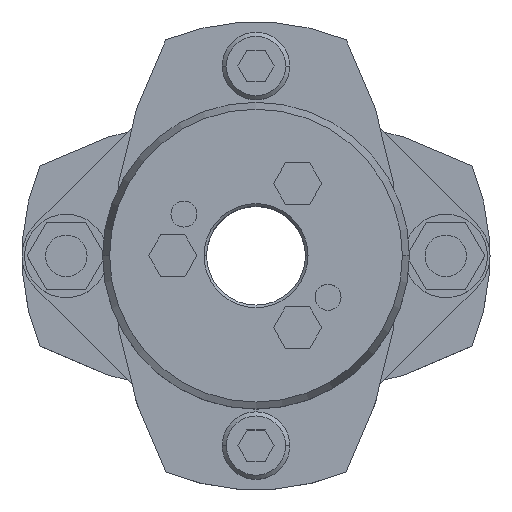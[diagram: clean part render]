
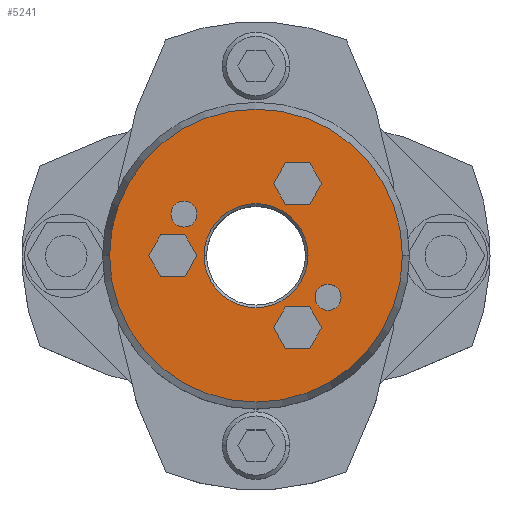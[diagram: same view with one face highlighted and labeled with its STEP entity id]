
A CAD part, top view. The second image highlights one B-rep face of the part: STEP entity #5241.
In plain terms, the highlighted planar face has unit normal (0, 0, 1).
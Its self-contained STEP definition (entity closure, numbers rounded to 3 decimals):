
#857=CARTESIAN_POINT('',(-10.,0.,39.25));
#858=VERTEX_POINT('',#857);
#874=CARTESIAN_POINT('',(10.,0.,39.25));
#875=VERTEX_POINT('',#874);
#882=CARTESIAN_POINT('',(0.,0.,39.25));
#883=DIRECTION('',(0.0,0.0,1.0));
#884=DIRECTION('',(-1.0,0.0,0.0));
#885=AXIS2_PLACEMENT_3D('',#882,#883,#884);
#886=CIRCLE('',#885,10.0);
#887=EDGE_CURVE('',#875,#858,#886,.T.);
#1045=CARTESIAN_POINT('',(28.16,0.,39.25));
#1046=VERTEX_POINT('',#1045);
#1053=CARTESIAN_POINT('',(-28.16,0.,39.25));
#1054=VERTEX_POINT('',#1053);
#1055=CARTESIAN_POINT('',(0.,0.,39.25));
#1056=DIRECTION('',(0.0,0.0,-1.0));
#1057=DIRECTION('',(1.0,0.0,0.0));
#1058=AXIS2_PLACEMENT_3D('',#1055,#1056,#1057);
#1059=CIRCLE('',#1058,28.16);
#1060=EDGE_CURVE('',#1046,#1054,#1059,.T.);
#1303=CARTESIAN_POINT('',(-16.356,8.,39.25));
#1304=VERTEX_POINT('',#1303);
#1320=CARTESIAN_POINT('',(-11.356,8.,39.25));
#1321=VERTEX_POINT('',#1320);
#1328=CARTESIAN_POINT('',(-13.856,8.,39.25));
#1329=DIRECTION('',(0.0,0.0,-1.0));
#1330=DIRECTION('',(-1.0,0.0,0.0));
#1331=AXIS2_PLACEMENT_3D('',#1328,#1329,#1330);
#1332=CIRCLE('',#1331,2.5);
#1333=EDGE_CURVE('',#1304,#1321,#1332,.T.);
#1345=CARTESIAN_POINT('',(11.356,-8.,39.25));
#1346=VERTEX_POINT('',#1345);
#1362=CARTESIAN_POINT('',(16.356,-8.,39.25));
#1363=VERTEX_POINT('',#1362);
#1370=CARTESIAN_POINT('',(13.856,-8.,39.25));
#1371=DIRECTION('',(0.0,0.0,-1.0));
#1372=DIRECTION('',(-1.0,0.0,0.0));
#1373=AXIS2_PLACEMENT_3D('',#1370,#1371,#1372);
#1374=CIRCLE('',#1373,2.5);
#1375=EDGE_CURVE('',#1346,#1363,#1374,.T.);
#3757=CARTESIAN_POINT('',(3.381,13.856,39.25));
#3758=VERTEX_POINT('',#3757);
#3765=CARTESIAN_POINT('',(5.691,9.856,39.25));
#3766=VERTEX_POINT('',#3765);
#3767=CARTESIAN_POINT('',(5.691,9.856,39.25));
#3768=DIRECTION('',(-0.5,0.866,0.0));
#3769=VECTOR('',#3768,4.619);
#3770=LINE('',#3767,#3769);
#3771=EDGE_CURVE('',#3766,#3758,#3770,.T.);
#3795=CARTESIAN_POINT('',(5.691,17.856,39.25));
#3796=VERTEX_POINT('',#3795);
#3803=CARTESIAN_POINT('',(3.381,13.856,39.25));
#3804=DIRECTION('',(0.5,0.866,0.0));
#3805=VECTOR('',#3804,4.619);
#3806=LINE('',#3803,#3805);
#3807=EDGE_CURVE('',#3758,#3796,#3806,.T.);
#3826=CARTESIAN_POINT('',(10.309,17.856,39.25));
#3827=VERTEX_POINT('',#3826);
#3834=CARTESIAN_POINT('',(5.691,17.856,39.25));
#3835=DIRECTION('',(1.0,0.0,0.0));
#3836=VECTOR('',#3835,4.619);
#3837=LINE('',#3834,#3836);
#3838=EDGE_CURVE('',#3796,#3827,#3837,.T.);
#3857=CARTESIAN_POINT('',(12.619,13.856,39.25));
#3858=VERTEX_POINT('',#3857);
#3865=CARTESIAN_POINT('',(10.309,17.856,39.25));
#3866=DIRECTION('',(0.5,-0.866,0.0));
#3867=VECTOR('',#3866,4.619);
#3868=LINE('',#3865,#3867);
#3869=EDGE_CURVE('',#3827,#3858,#3868,.T.);
#3888=CARTESIAN_POINT('',(10.309,9.856,39.25));
#3889=VERTEX_POINT('',#3888);
#3896=CARTESIAN_POINT('',(12.619,13.856,39.25));
#3897=DIRECTION('',(-0.5,-0.866,0.0));
#3898=VECTOR('',#3897,4.619);
#3899=LINE('',#3896,#3898);
#3900=EDGE_CURVE('',#3858,#3889,#3899,.T.);
#3918=CARTESIAN_POINT('',(10.309,9.856,39.25));
#3919=DIRECTION('',(-1.0,0.0,0.0));
#3920=VECTOR('',#3919,4.619);
#3921=LINE('',#3918,#3920);
#3922=EDGE_CURVE('',#3889,#3766,#3921,.T.);
#3957=CARTESIAN_POINT('',(-20.619,0.,39.25));
#3958=VERTEX_POINT('',#3957);
#3965=CARTESIAN_POINT('',(-18.309,-4.,39.25));
#3966=VERTEX_POINT('',#3965);
#3967=CARTESIAN_POINT('',(-18.309,-4.,39.25));
#3968=DIRECTION('',(-0.5,0.866,0.0));
#3969=VECTOR('',#3968,4.619);
#3970=LINE('',#3967,#3969);
#3971=EDGE_CURVE('',#3966,#3958,#3970,.T.);
#3995=CARTESIAN_POINT('',(-18.309,4.,39.25));
#3996=VERTEX_POINT('',#3995);
#4003=CARTESIAN_POINT('',(-20.619,0.,39.25));
#4004=DIRECTION('',(0.5,0.866,0.0));
#4005=VECTOR('',#4004,4.619);
#4006=LINE('',#4003,#4005);
#4007=EDGE_CURVE('',#3958,#3996,#4006,.T.);
#4026=CARTESIAN_POINT('',(-13.691,4.,39.25));
#4027=VERTEX_POINT('',#4026);
#4034=CARTESIAN_POINT('',(-18.309,4.,39.25));
#4035=DIRECTION('',(1.0,0.0,0.0));
#4036=VECTOR('',#4035,4.619);
#4037=LINE('',#4034,#4036);
#4038=EDGE_CURVE('',#3996,#4027,#4037,.T.);
#4057=CARTESIAN_POINT('',(-11.381,0.,39.25));
#4058=VERTEX_POINT('',#4057);
#4065=CARTESIAN_POINT('',(-13.691,4.,39.25));
#4066=DIRECTION('',(0.5,-0.866,0.0));
#4067=VECTOR('',#4066,4.619);
#4068=LINE('',#4065,#4067);
#4069=EDGE_CURVE('',#4027,#4058,#4068,.T.);
#4088=CARTESIAN_POINT('',(-13.691,-4.,39.25));
#4089=VERTEX_POINT('',#4088);
#4096=CARTESIAN_POINT('',(-11.381,0.,39.25));
#4097=DIRECTION('',(-0.5,-0.866,0.0));
#4098=VECTOR('',#4097,4.619);
#4099=LINE('',#4096,#4098);
#4100=EDGE_CURVE('',#4058,#4089,#4099,.T.);
#4118=CARTESIAN_POINT('',(-13.691,-4.,39.25));
#4119=DIRECTION('',(-1.0,0.0,0.0));
#4120=VECTOR('',#4119,4.619);
#4121=LINE('',#4118,#4120);
#4122=EDGE_CURVE('',#4089,#3966,#4121,.T.);
#4157=CARTESIAN_POINT('',(3.381,-13.856,39.25));
#4158=VERTEX_POINT('',#4157);
#4165=CARTESIAN_POINT('',(5.691,-17.856,39.25));
#4166=VERTEX_POINT('',#4165);
#4167=CARTESIAN_POINT('',(5.691,-17.856,39.25));
#4168=DIRECTION('',(-0.5,0.866,0.0));
#4169=VECTOR('',#4168,4.619);
#4170=LINE('',#4167,#4169);
#4171=EDGE_CURVE('',#4166,#4158,#4170,.T.);
#4195=CARTESIAN_POINT('',(5.691,-9.856,39.25));
#4196=VERTEX_POINT('',#4195);
#4203=CARTESIAN_POINT('',(3.381,-13.856,39.25));
#4204=DIRECTION('',(0.5,0.866,0.0));
#4205=VECTOR('',#4204,4.619);
#4206=LINE('',#4203,#4205);
#4207=EDGE_CURVE('',#4158,#4196,#4206,.T.);
#4226=CARTESIAN_POINT('',(10.309,-9.856,39.25));
#4227=VERTEX_POINT('',#4226);
#4234=CARTESIAN_POINT('',(5.691,-9.856,39.25));
#4235=DIRECTION('',(1.0,0.0,0.0));
#4236=VECTOR('',#4235,4.619);
#4237=LINE('',#4234,#4236);
#4238=EDGE_CURVE('',#4196,#4227,#4237,.T.);
#4257=CARTESIAN_POINT('',(12.619,-13.856,39.25));
#4258=VERTEX_POINT('',#4257);
#4265=CARTESIAN_POINT('',(10.309,-9.856,39.25));
#4266=DIRECTION('',(0.5,-0.866,0.0));
#4267=VECTOR('',#4266,4.619);
#4268=LINE('',#4265,#4267);
#4269=EDGE_CURVE('',#4227,#4258,#4268,.T.);
#4288=CARTESIAN_POINT('',(10.309,-17.856,39.25));
#4289=VERTEX_POINT('',#4288);
#4296=CARTESIAN_POINT('',(12.619,-13.856,39.25));
#4297=DIRECTION('',(-0.5,-0.866,0.0));
#4298=VECTOR('',#4297,4.619);
#4299=LINE('',#4296,#4298);
#4300=EDGE_CURVE('',#4258,#4289,#4299,.T.);
#4318=CARTESIAN_POINT('',(10.309,-17.856,39.25));
#4319=DIRECTION('',(-1.0,0.0,0.0));
#4320=VECTOR('',#4319,4.619);
#4321=LINE('',#4318,#4320);
#4322=EDGE_CURVE('',#4289,#4166,#4321,.T.);
#4348=CARTESIAN_POINT('',(13.856,-8.,39.25));
#4349=DIRECTION('',(0.0,0.0,-1.0));
#4350=DIRECTION('',(-1.0,0.0,0.0));
#4351=AXIS2_PLACEMENT_3D('',#4348,#4349,#4350);
#4352=CIRCLE('',#4351,2.5);
#4353=EDGE_CURVE('',#1363,#1346,#4352,.T.);
#4382=CARTESIAN_POINT('',(-13.856,8.,39.25));
#4383=DIRECTION('',(0.0,0.0,-1.0));
#4384=DIRECTION('',(-1.0,0.0,0.0));
#4385=AXIS2_PLACEMENT_3D('',#4382,#4383,#4384);
#4386=CIRCLE('',#4385,2.5);
#4387=EDGE_CURVE('',#1321,#1304,#4386,.T.);
#5180=CARTESIAN_POINT('',(0.,0.,39.25));
#5181=DIRECTION('',(0.0,0.0,-1.0));
#5182=DIRECTION('',(1.0,0.0,0.0));
#5183=AXIS2_PLACEMENT_3D('',#5180,#5181,#5182);
#5184=CIRCLE('',#5183,28.16);
#5185=EDGE_CURVE('',#1054,#1046,#5184,.T.);
#5190=CARTESIAN_POINT('',(-2.682,0.,39.25));
#5191=DIRECTION('',(0.0,0.0,1.0));
#5192=DIRECTION('',(-1.0,0.0,0.0));
#5193=AXIS2_PLACEMENT_3D('',#5190,#5191,#5192);
#5194=PLANE('',#5193);
#5195=ORIENTED_EDGE('',*,*,#5185,.F.);
#5196=ORIENTED_EDGE('',*,*,#1060,.F.);
#5197=EDGE_LOOP('',(#5195,#5196));
#5198=FACE_OUTER_BOUND('',#5197,.T.);
#5199=ORIENTED_EDGE('',*,*,#3771,.T.);
#5200=ORIENTED_EDGE('',*,*,#3807,.T.);
#5201=ORIENTED_EDGE('',*,*,#3838,.T.);
#5202=ORIENTED_EDGE('',*,*,#3869,.T.);
#5203=ORIENTED_EDGE('',*,*,#3900,.T.);
#5204=ORIENTED_EDGE('',*,*,#3922,.T.);
#5205=EDGE_LOOP('',(#5199,#5200,#5201,#5202,#5203,#5204));
#5206=FACE_BOUND('',#5205,.T.);
#5207=ORIENTED_EDGE('',*,*,#3971,.T.);
#5208=ORIENTED_EDGE('',*,*,#4007,.T.);
#5209=ORIENTED_EDGE('',*,*,#4038,.T.);
#5210=ORIENTED_EDGE('',*,*,#4069,.T.);
#5211=ORIENTED_EDGE('',*,*,#4100,.T.);
#5212=ORIENTED_EDGE('',*,*,#4122,.T.);
#5213=EDGE_LOOP('',(#5207,#5208,#5209,#5210,#5211,#5212));
#5214=FACE_BOUND('',#5213,.T.);
#5215=ORIENTED_EDGE('',*,*,#4171,.T.);
#5216=ORIENTED_EDGE('',*,*,#4207,.T.);
#5217=ORIENTED_EDGE('',*,*,#4238,.T.);
#5218=ORIENTED_EDGE('',*,*,#4269,.T.);
#5219=ORIENTED_EDGE('',*,*,#4300,.T.);
#5220=ORIENTED_EDGE('',*,*,#4322,.T.);
#5221=EDGE_LOOP('',(#5215,#5216,#5217,#5218,#5219,#5220));
#5222=FACE_BOUND('',#5221,.T.);
#5223=ORIENTED_EDGE('',*,*,#1375,.T.);
#5224=ORIENTED_EDGE('',*,*,#4353,.T.);
#5225=EDGE_LOOP('',(#5223,#5224));
#5226=FACE_BOUND('',#5225,.T.);
#5227=ORIENTED_EDGE('',*,*,#1333,.T.);
#5228=ORIENTED_EDGE('',*,*,#4387,.T.);
#5229=EDGE_LOOP('',(#5227,#5228));
#5230=FACE_BOUND('',#5229,.T.);
#5231=ORIENTED_EDGE('',*,*,#887,.F.);
#5232=CARTESIAN_POINT('',(0.,0.,39.25));
#5233=DIRECTION('',(0.0,0.0,1.0));
#5234=DIRECTION('',(-1.0,0.0,0.0));
#5235=AXIS2_PLACEMENT_3D('',#5232,#5233,#5234);
#5236=CIRCLE('',#5235,10.0);
#5237=EDGE_CURVE('',#858,#875,#5236,.T.);
#5238=ORIENTED_EDGE('',*,*,#5237,.F.);
#5239=EDGE_LOOP('',(#5231,#5238));
#5240=FACE_BOUND('',#5239,.T.);
#5241=ADVANCED_FACE('',(#5198,#5206,#5214,#5222,#5226,#5230,#5240),#5194,.T.);
